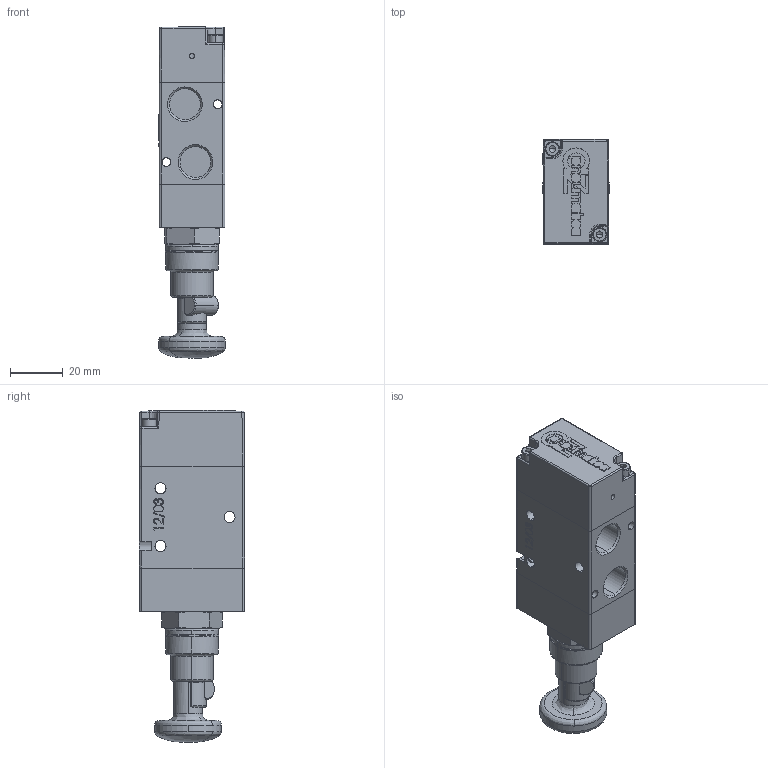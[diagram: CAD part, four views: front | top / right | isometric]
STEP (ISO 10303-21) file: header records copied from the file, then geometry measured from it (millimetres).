
FILE_DESCRIPTION (( 'STEP AP214' ), '1' );
FILE_NAME ('01_078_4.STEP', '2016-01-26T12:56:57', ( '' ), ( '' ), 'SwSTEP 2.0', 'SolidWorks 2016', '' );
FILE_SCHEMA (( 'AUTOMOTIVE_DESIGN' ));
Length unit declared in the file: millimetre
Products named in the file (1): 01_078_4
Bounding box: 25.5 x 40 x 126.42 mm (x, y, z)
Volume: 82307.5 mm3; surface area: 27017.5 mm2
Topology: 9 solids, 9 shells, 1489 faces, 3725 edges, 2270 vertices
Faces by surface type: cone 539, plane 461, cylinder 363, bspline 101, sphere 14, torus 11
Entity records: 53584 total; most frequent: CARTESIAN_POINT 15276, DIRECTION 7419, ORIENTED_EDGE 7418, EDGE_CURVE 3709, AXIS2_PLACEMENT_3D 2686, VERTEX_POINT 2266, VECTOR 2047, LINE 2047
